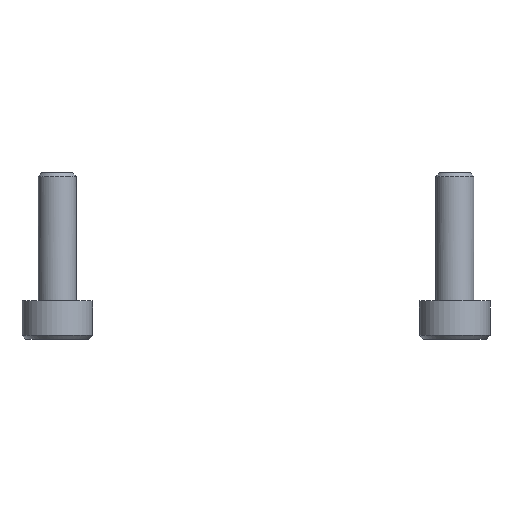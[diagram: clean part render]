
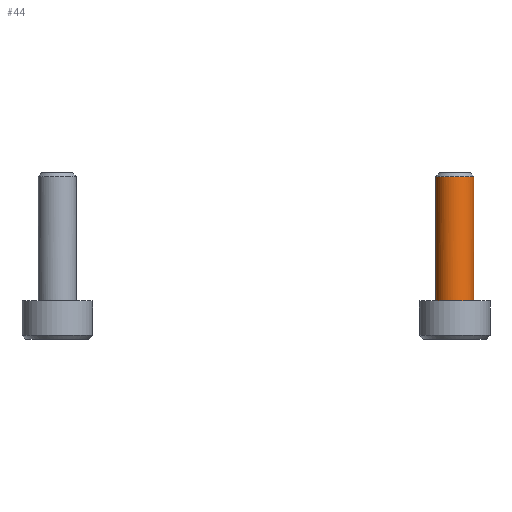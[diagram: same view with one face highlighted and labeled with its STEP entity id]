
A CAD part, left-side view. The second image highlights one B-rep face of the part: STEP entity #44.
In plain terms, the highlighted free-form (B-spline) face has degree [2, 1] with [9, 2] control points.
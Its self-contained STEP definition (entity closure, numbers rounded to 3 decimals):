
#44=ADVANCED_FACE('',(#69),#763,.T.);
#69=FACE_OUTER_BOUND('',#94,.T.);
#94=EDGE_LOOP('',(#127,#128,#129,#130));
#127=ORIENTED_EDGE('',*,*,#540,.T.);
#128=ORIENTED_EDGE('',*,*,#541,.T.);
#129=ORIENTED_EDGE('',*,*,#542,.T.);
#130=ORIENTED_EDGE('',*,*,#543,.T.);
#230=(
BOUNDED_CURVE()
B_SPLINE_CURVE(2,(#1137,#1138,#1139,#1140,#1141),.UNSPECIFIED.,.F.,.F.)
B_SPLINE_CURVE_WITH_KNOTS((3,2,3),(0.,2.356,4.712),
 .UNSPECIFIED.)
CURVE()
GEOMETRIC_REPRESENTATION_ITEM()
RATIONAL_B_SPLINE_CURVE((1.,0.707,1.,0.707,1.))
REPRESENTATION_ITEM('')
);
#231=(
BOUNDED_CURVE()
B_SPLINE_CURVE(2,(#1148,#1149,#1150,#1151,#1152),.UNSPECIFIED.,.F.,.F.)
B_SPLINE_CURVE_WITH_KNOTS((3,2,3),(-4.712,-2.356,0.),
 .UNSPECIFIED.)
CURVE()
GEOMETRIC_REPRESENTATION_ITEM()
RATIONAL_B_SPLINE_CURVE((1.,0.707,1.,0.707,1.))
REPRESENTATION_ITEM('')
);
#258=(
BOUNDED_CURVE()
B_SPLINE_CURVE(2,(#1441,#1442,#1443,#1444,#1445),.UNSPECIFIED.,.F.,.F.)
B_SPLINE_CURVE_WITH_KNOTS((3,2,3),(-4.712,-2.356,0.),
 .UNSPECIFIED.)
CURVE()
GEOMETRIC_REPRESENTATION_ITEM()
RATIONAL_B_SPLINE_CURVE((1.,0.707,1.,0.707,1.))
REPRESENTATION_ITEM('')
);
#271=PCURVE('',#763,#379);
#272=PCURVE('',#763,#380);
#273=PCURVE('',#763,#381);
#274=PCURVE('',#763,#382);
#278=PCURVE('',#764,#386);
#347=PCURVE('',#768,#455);
#349=PCURVE('',#768,#457);
#354=PCURVE('',#759,#462);
#379=DEFINITIONAL_REPRESENTATION('',(#600),#1499);
#380=DEFINITIONAL_REPRESENTATION('',(#601),#1499);
#381=DEFINITIONAL_REPRESENTATION('',(#603),#1499);
#382=DEFINITIONAL_REPRESENTATION('',(#604),#1499);
#386=DEFINITIONAL_REPRESENTATION('',(#610),#1499);
#455=DEFINITIONAL_REPRESENTATION('',(#695),#1499);
#457=DEFINITIONAL_REPRESENTATION('',(#697),#1499);
#462=DEFINITIONAL_REPRESENTATION('',(#258),#1499);
#486=SURFACE_CURVE('',#599,(#271,#347),.PCURVE_S1.);
#487=SURFACE_CURVE('',#230,(#272,#278),.PCURVE_S1.);
#488=SURFACE_CURVE('',#602,(#273,#349),.PCURVE_S1.);
#489=SURFACE_CURVE('',#231,(#274,#354),.PCURVE_S1.);
#540=EDGE_CURVE('',#719,#720,#486,.T.);
#541=EDGE_CURVE('',#720,#721,#487,.T.);
#542=EDGE_CURVE('',#721,#722,#488,.T.);
#543=EDGE_CURVE('',#722,#719,#489,.T.);
#599=B_SPLINE_CURVE_WITH_KNOTS('',1,(#1133,#1134),.UNSPECIFIED.,.F.,.F.,
(2,2),(-9.694,0.),.UNSPECIFIED.);
#600=B_SPLINE_CURVE_WITH_KNOTS('',1,(#1135,#1136),.UNSPECIFIED.,.F.,.F.,
(2,2),(-9.694,0.),.UNSPECIFIED.);
#601=B_SPLINE_CURVE_WITH_KNOTS('',1,(#1142,#1143),.UNSPECIFIED.,.F.,.F.,
(2,2),(0.,4.712),.UNSPECIFIED.);
#602=B_SPLINE_CURVE_WITH_KNOTS('',1,(#1144,#1145),.UNSPECIFIED.,.F.,.F.,
(2,2),(-9.694,0.),.UNSPECIFIED.);
#603=B_SPLINE_CURVE_WITH_KNOTS('',1,(#1146,#1147),.UNSPECIFIED.,.F.,.F.,
(2,2),(-9.694,0.),.UNSPECIFIED.);
#604=B_SPLINE_CURVE_WITH_KNOTS('',1,(#1153,#1154),.UNSPECIFIED.,.F.,.F.,
(2,2),(-4.712,0.),.UNSPECIFIED.);
#610=B_SPLINE_CURVE_WITH_KNOTS('',1,(#1170,#1171),.UNSPECIFIED.,.F.,.F.,
(2,2),(0.,4.712),.UNSPECIFIED.);
#695=B_SPLINE_CURVE_WITH_KNOTS('',1,(#1408,#1409),.UNSPECIFIED.,.F.,.F.,
(2,2),(-9.694,0.),.UNSPECIFIED.);
#697=B_SPLINE_CURVE_WITH_KNOTS('',1,(#1417,#1418),.UNSPECIFIED.,.F.,.F.,
(2,2),(-9.694,0.),.UNSPECIFIED.);
#719=VERTEX_POINT('',#1067);
#720=VERTEX_POINT('',#1068);
#721=VERTEX_POINT('',#1069);
#722=VERTEX_POINT('',#1070);
#759=PLANE('',#828);
#763=(
BOUNDED_SURFACE()
B_SPLINE_SURFACE(2,1,((#902,#903),(#904,#905),(#906,#907),(#908,#909),(#910,
#911),(#912,#913),(#914,#915),(#916,#917),(#918,#919)),.UNSPECIFIED.,.T.,
 .F.,.F.)
B_SPLINE_SURFACE_WITH_KNOTS((3,2,2,2,3),(2,2),(0.,1.571,3.142,
4.712,6.283),(0.,11.635),.UNSPECIFIED.)
GEOMETRIC_REPRESENTATION_ITEM()
RATIONAL_B_SPLINE_SURFACE(((1.,1.),(0.707,0.707),
(1.,1.),(0.707,0.707),(1.,1.),(0.707,
0.707),(1.,1.),(0.707,0.707),(1.,1.)))
REPRESENTATION_ITEM('')
SURFACE()
);
#764=(
BOUNDED_SURFACE()
B_SPLINE_SURFACE(2,1,((#920,#921),(#922,#923),(#924,#925),(#926,#927),(#928,
#929),(#930,#931),(#932,#933),(#934,#935),(#936,#937)),.UNSPECIFIED.,.T.,
 .F.,.F.)
B_SPLINE_SURFACE_WITH_KNOTS((3,2,2,2,3),(2,2),(0.,1.571,3.142,
4.712,6.283),(0.,2.335),.UNSPECIFIED.)
GEOMETRIC_REPRESENTATION_ITEM()
RATIONAL_B_SPLINE_SURFACE(((1.,1.),(0.707,0.707),
(1.,1.),(0.707,0.707),(1.,1.),(0.707,
0.707),(1.,1.),(0.707,0.707),(1.,1.)))
REPRESENTATION_ITEM('')
SURFACE()
);
#768=(
BOUNDED_SURFACE()
B_SPLINE_SURFACE(2,1,((#1005,#1006),(#1007,#1008),(#1009,#1010),(#1011,#1012),
(#1013,#1014),(#1015,#1016),(#1017,#1018),(#1019,#1020),(#1021,#1022)),
 .UNSPECIFIED.,.T.,.F.,.F.)
B_SPLINE_SURFACE_WITH_KNOTS((3,2,2,2,3),(2,2),(0.,1.571,3.142,
4.712,6.283),(0.,11.635),.UNSPECIFIED.)
GEOMETRIC_REPRESENTATION_ITEM()
RATIONAL_B_SPLINE_SURFACE(((1.,1.),(0.707,0.707),
(1.,1.),(0.707,0.707),(1.,1.),(0.707,
0.707),(1.,1.),(0.707,0.707),(1.,1.)))
REPRESENTATION_ITEM('')
SURFACE()
);
#828=AXIS2_PLACEMENT_3D('',#1023,#852,$);
#852=DIRECTION('',(1.,0.,0.));
#902=CARTESIAN_POINT('',(-0.971,1.5,0.));
#903=CARTESIAN_POINT('',(10.664,1.5,0.));
#904=CARTESIAN_POINT('',(-0.971,1.5,1.5));
#905=CARTESIAN_POINT('',(10.664,1.5,1.5));
#906=CARTESIAN_POINT('',(-0.971,0.,1.5));
#907=CARTESIAN_POINT('',(10.664,0.,1.5));
#908=CARTESIAN_POINT('',(-0.971,-1.5,1.5));
#909=CARTESIAN_POINT('',(10.664,-1.5,1.5));
#910=CARTESIAN_POINT('',(-0.971,-1.5,0.));
#911=CARTESIAN_POINT('',(10.664,-1.5,0.));
#912=CARTESIAN_POINT('',(-0.971,-1.5,-1.5));
#913=CARTESIAN_POINT('',(10.664,-1.5,-1.5));
#914=CARTESIAN_POINT('',(-0.971,0.,-1.5));
#915=CARTESIAN_POINT('',(10.664,0.,-1.5));
#916=CARTESIAN_POINT('',(-0.971,1.5,-1.5));
#917=CARTESIAN_POINT('',(10.664,1.5,-1.5));
#918=CARTESIAN_POINT('',(-0.971,1.5,0.));
#919=CARTESIAN_POINT('',(10.664,1.5,0.));
#920=CARTESIAN_POINT('',(11.194,0.,0.));
#921=CARTESIAN_POINT('',(9.542,1.651,0.));
#922=CARTESIAN_POINT('',(11.194,0.,0.));
#923=CARTESIAN_POINT('',(9.542,1.651,-1.651));
#924=CARTESIAN_POINT('',(11.194,0.,0.));
#925=CARTESIAN_POINT('',(9.542,0.,-1.651));
#926=CARTESIAN_POINT('',(11.194,0.,0.));
#927=CARTESIAN_POINT('',(9.542,-1.651,-1.651));
#928=CARTESIAN_POINT('',(11.194,0.,0.));
#929=CARTESIAN_POINT('',(9.542,-1.651,0.));
#930=CARTESIAN_POINT('',(11.194,0.,0.));
#931=CARTESIAN_POINT('',(9.542,-1.651,1.651));
#932=CARTESIAN_POINT('',(11.194,0.,0.));
#933=CARTESIAN_POINT('',(9.542,0.,1.651));
#934=CARTESIAN_POINT('',(11.194,0.,0.));
#935=CARTESIAN_POINT('',(9.542,1.651,1.651));
#936=CARTESIAN_POINT('',(11.194,0.,0.));
#937=CARTESIAN_POINT('',(9.542,1.651,0.));
#1005=CARTESIAN_POINT('',(-0.971,-1.5,0.));
#1006=CARTESIAN_POINT('',(10.664,-1.5,0.));
#1007=CARTESIAN_POINT('',(-0.971,-1.5,-1.5));
#1008=CARTESIAN_POINT('',(10.664,-1.5,-1.5));
#1009=CARTESIAN_POINT('',(-0.971,0.,-1.5));
#1010=CARTESIAN_POINT('',(10.664,0.,-1.5));
#1011=CARTESIAN_POINT('',(-0.971,1.5,-1.5));
#1012=CARTESIAN_POINT('',(10.664,1.5,-1.5));
#1013=CARTESIAN_POINT('',(-0.971,1.5,0.));
#1014=CARTESIAN_POINT('',(10.664,1.5,0.));
#1015=CARTESIAN_POINT('',(-0.971,1.5,1.5));
#1016=CARTESIAN_POINT('',(10.664,1.5,1.5));
#1017=CARTESIAN_POINT('',(-0.971,0.,1.5));
#1018=CARTESIAN_POINT('',(10.664,0.,1.5));
#1019=CARTESIAN_POINT('',(-0.971,-1.5,1.5));
#1020=CARTESIAN_POINT('',(10.664,-1.5,1.5));
#1021=CARTESIAN_POINT('',(-0.971,-1.5,0.));
#1022=CARTESIAN_POINT('',(10.664,-1.5,0.));
#1023=CARTESIAN_POINT('',(0.,3.301,-3.301));
#1067=CARTESIAN_POINT('',(0.,0.,-1.5));
#1068=CARTESIAN_POINT('',(9.694,0.,-1.5));
#1069=CARTESIAN_POINT('',(9.694,0.,1.5));
#1070=CARTESIAN_POINT('',(0.,0.,1.5));
#1133=CARTESIAN_POINT('',(0.,0.,-1.5));
#1134=CARTESIAN_POINT('',(9.694,0.,-1.5));
#1135=CARTESIAN_POINT('',(4.712,0.971));
#1136=CARTESIAN_POINT('',(4.712,10.664));
#1137=CARTESIAN_POINT('',(9.694,0.,-1.5));
#1138=CARTESIAN_POINT('',(9.694,-1.5,-1.5));
#1139=CARTESIAN_POINT('',(9.694,-1.5,0.));
#1140=CARTESIAN_POINT('',(9.694,-1.5,1.5));
#1141=CARTESIAN_POINT('',(9.694,0.,1.5));
#1142=CARTESIAN_POINT('',(4.712,10.664));
#1143=CARTESIAN_POINT('',(1.571,10.664));
#1144=CARTESIAN_POINT('',(9.694,0.,1.5));
#1145=CARTESIAN_POINT('',(0.,0.,1.5));
#1146=CARTESIAN_POINT('',(1.571,10.664));
#1147=CARTESIAN_POINT('',(1.571,0.971));
#1148=CARTESIAN_POINT('',(0.,0.,1.5));
#1149=CARTESIAN_POINT('',(0.,-1.5,1.5));
#1150=CARTESIAN_POINT('',(0.,-1.5,0.));
#1151=CARTESIAN_POINT('',(0.,-1.5,-1.5));
#1152=CARTESIAN_POINT('',(0.,0.,-1.5));
#1153=CARTESIAN_POINT('',(1.571,0.971));
#1154=CARTESIAN_POINT('',(4.712,0.971));
#1170=CARTESIAN_POINT('',(1.571,2.121));
#1171=CARTESIAN_POINT('',(4.712,2.121));
#1408=CARTESIAN_POINT('',(1.571,0.971));
#1409=CARTESIAN_POINT('',(1.571,10.664));
#1417=CARTESIAN_POINT('',(4.712,10.664));
#1418=CARTESIAN_POINT('',(4.712,0.971));
#1441=CARTESIAN_POINT('',(3.625,0.));
#1442=CARTESIAN_POINT('',(3.625,1.5));
#1443=CARTESIAN_POINT('',(2.125,1.5));
#1444=CARTESIAN_POINT('',(0.625,1.5));
#1445=CARTESIAN_POINT('',(0.625,0.));
#1499=(
GEOMETRIC_REPRESENTATION_CONTEXT(2)
PARAMETRIC_REPRESENTATION_CONTEXT()
REPRESENTATION_CONTEXT('pspace','')
);
